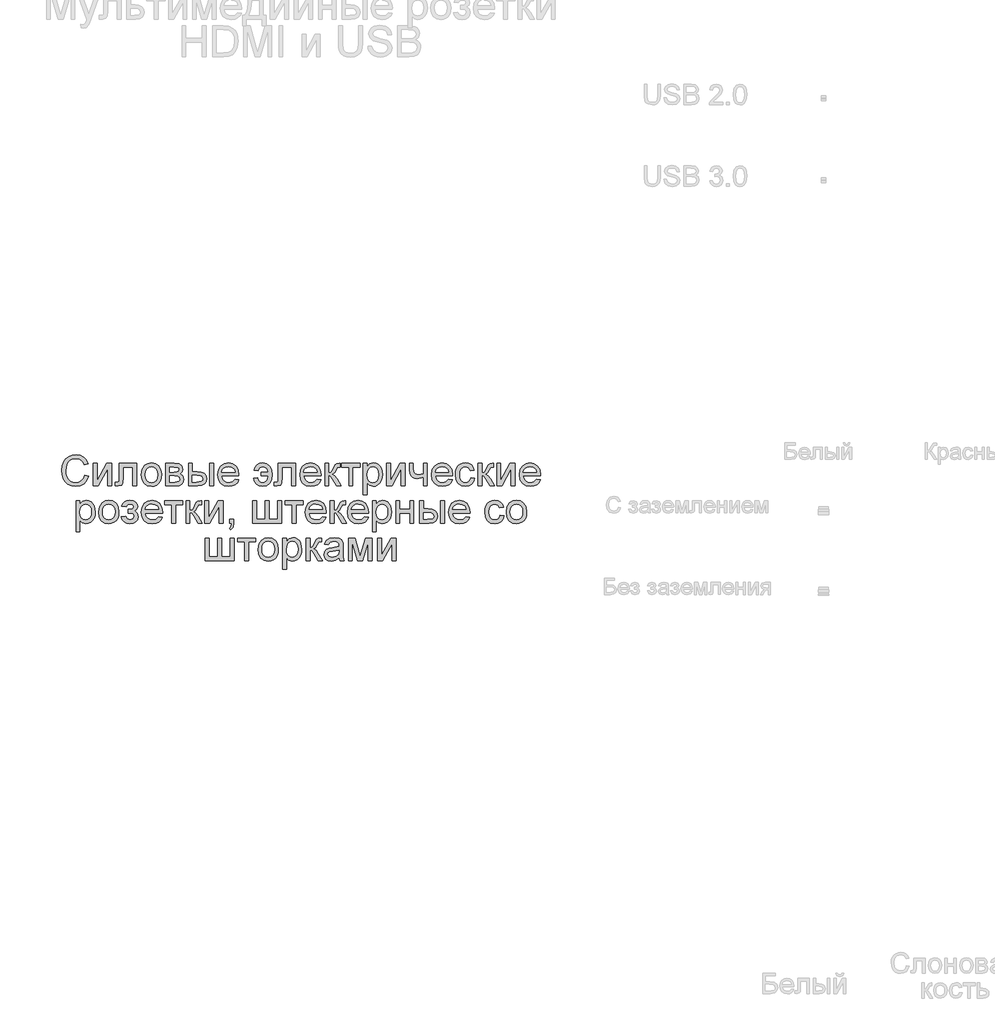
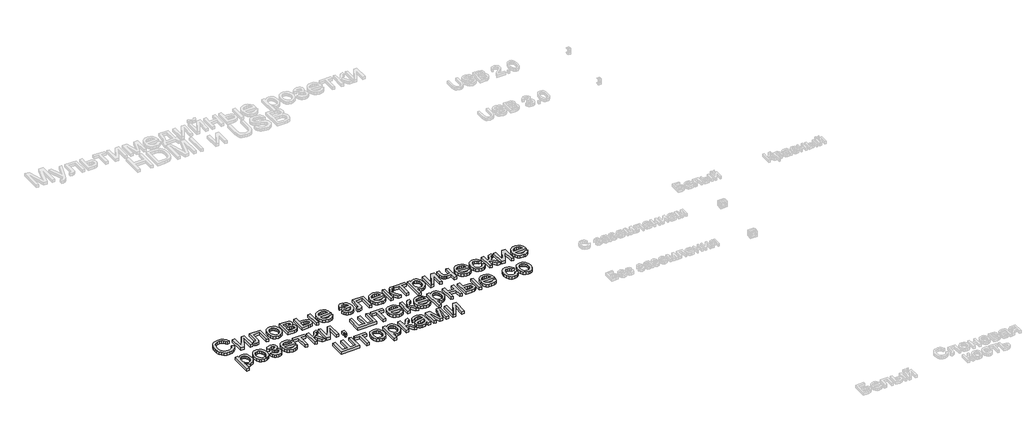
# One storey, part 11 of 47: 1 proxy.
"""IFC4 building model written with IfcOpenShell, lengths in millimetres."""

from ifc_helpers import new_model, si_unit, origin, origin_with_axes, place, context, project, spatial, polyline, outline, extrude, element, save

model = new_model("IFC4")

# Units and contexts
model_context = context("Model", 3, world=origin())
ifc_project = project(units=[si_unit("LENGTHUNIT", "METRE", prefix="MILLI")], contexts=[model_context])

# Site, building, storey
site = spatial("IfcSite", under=ifc_project)
building = spatial("IfcBuilding", under=site)
storey = spatial("IfcBuildingStorey", under=building, Name="Этаж 01", Elevation=0.0)

# Proxy
placement = place(None, origin())
element("IfcBuildingElementProxy", 1, Name="150 мм Arial", ObjectType="150 мм Arial", at=placement, inside=storey, context=model_context, shape_type="SweptSolid", body=[
    extrude(outline(polyline([(-3516.5120185, -10590.2763634), (-3497.6764603, -10595.1324057), (-3506.3676724, -10617.0811653), (-3520.0068974, -10633.1162217), (-3537.9227506, -10642.9248754), (-3559.4438473, -10646.1944267), (-3581.2914393, -10643.7204202), (-3598.6416739, -10636.298401), (-3611.940608, -10624.1858863), (-3621.6342986, -10607.6403936), (-3627.5526002, -10588.1886331), (-3629.5253674, -10567.3573151), (-3627.2950828, -10545.3855629), (-3620.604229, -10526.412049), (-3609.8022939, -10511.0391802), (-3595.2387654, -10499.8693631), (-3577.9667058, -10493.0681447), (-3559.0391771, -10490.8010719), (-3538.3872016, -10493.7349308), (-3521.3128785, -10502.5365075), (-3508.3496367, -10516.6631762), (-3500.0309051, -10535.5723107), (-3518.8664632, -10540.0604711), (-3525.3963686, -10526.3246771), (-3534.317507, -10516.9022995), (-3545.740243, -10511.4530474), (-3559.7749411, -10509.63663), (-3575.9525518, -10511.650784), (-3589.2422889, -10517.6932457), (-3599.3268541, -10527.1294189), (-3605.8889492, -10539.3247071), (-3610.6898092, -10567.3205269), (-3609.268865, -10584.7213453), (-3605.0060324, -10599.7677189), (-3597.740363, -10611.8848321), (-3587.3109084, -10620.4978693), (-3574.8075191, -10625.6436187), (-3561.3200455, -10627.3588685), (-3545.5976887, -10625.0228178), (-3532.4964912, -10618.0146658), (-3522.605064, -10606.4079889), (-3516.5120185, -10590.2763634)])), origin_with_axes(), (0.0, 0.0, 1.0), 20.0),
    extrude(outline(polyline([(-3474.1320126, -10533.1810777), (-3455.2964545, -10533.1810777), (-3455.2964545, -10617.5732074), (-3409.0168995, -10533.1810777), (-3384.6631114, -10533.1810777), (-3384.6631114, -10643.8399819), (-3403.4986695, -10643.8399819), (-3403.4986695, -10559.962887), (-3449.4839189, -10643.8399819), (-3474.1320126, -10643.8399819), (-3474.1320126, -10533.1810777)])), origin_with_axes(), (0.0, 0.0, 1.0), 20.0),
    extrude(outline(polyline([(-3346.9919951, -10533.1810777), (-3262.2319834, -10533.1810777), (-3262.2319834, -10643.7296173), (-3281.0675415, -10643.7296173), (-3281.0675415, -10552.0166359), (-3328.1564369, -10552.0166359), (-3328.1564369, -10604.8077022), (-3329.4256298, -10629.1614903), (-3336.3969936, -10639.443792), (-3352.878107, -10643.8399819), (-3368.181998, -10642.8834887), (-3368.181998, -10625.0044237), (-3359.7575003, -10625.0044237), (-3351.2410321, -10623.8455955), (-3347.8381237, -10620.1667755), (-3346.9919951, -10603.7408444), (-3346.9919951, -10533.1810777)])), origin_with_axes(), (0.0, 0.0, 1.0), 20.0),
    extrude(outline(polyline([(-3238.6875357, -10588.5105298), (-3234.6132426, -10561.8298881), (-3222.3903633, -10543.0771034), (-3207.2888074, -10533.8892506), (-3189.2074074, -10530.826633), (-3169.4199545, -10534.5560367), (-3153.6148243, -10545.7442479), (-3143.2543476, -10563.5083497), (-3139.8008554, -10586.9654254), (-3141.3275657, -10605.9941216), (-3145.9076965, -10620.4794752), (-3153.4078907, -10631.3273955), (-3163.694791, -10639.443792), (-3175.9130718, -10644.506768), (-3189.2074074, -10646.1944267), (-3209.2339835, -10642.4788185), (-3225.0207196, -10631.3319941), (-3235.2708317, -10613.1954117), (-3238.6875357, -10588.5105298)]), holes=[polyline([(-3219.8519775, -10588.4737416), (-3217.6722767, -10605.5204736), (-3211.1331743, -10617.6651779), (-3201.2923309, -10624.9354459), (-3189.2074074, -10627.3588685), (-3177.1776661, -10624.9216503), (-3167.3552168, -10617.6099956), (-3160.8161144, -10605.3043429), (-3158.6364136, -10587.8851304), (-3160.8299099, -10571.3350392), (-3167.4103991, -10559.3558817), (-3177.246644, -10552.0856138), (-3189.2074074, -10549.6621911), (-3201.2923309, -10552.0764167), (-3211.1331743, -10559.3190935), (-3217.6722767, -10571.4362067), (-3219.8519775, -10588.4737416)])]), origin_with_axes(), (0.0, 0.0, 1.0), 20.0),
    extrude(outline(polyline([(-3118.6108525, -10533.1810777), (-3077.1137634, -10533.1810777), (-3054.360262, -10535.7010694), (-3041.5579686, -10544.9349075), (-3036.2052856, -10561.0297448), (-3039.4426471, -10574.1079497), (-3049.19152, -10583.4337583), (-3036.5363794, -10593.6424836), (-3031.496396, -10611.3927899), (-3034.6877723, -10625.7493848), (-3042.2753385, -10635.8569426), (-3054.2866856, -10641.8442221), (-3070.7494049, -10643.8399819), (-3118.6108525, -10643.8399819), (-3118.6108525, -10533.1810777)]), holes=[polyline([(-3099.7752943, -10625.0044237), (-3076.672305, -10625.0044237), (-3056.1812779, -10621.6015153), (-3051.9414379, -10616.9616036), (-3050.3319542, -10609.8476855), (-3053.5509216, -10600.7793944), (-3061.9386311, -10595.5002877), (-3078.511715, -10594.3966417), (-3099.7752943, -10594.3966417), (-3099.7752943, -10625.0044237)]), polyline([(-3099.7752943, -10575.5610836), (-3081.1604654, -10575.5610836), (-3065.8013921, -10574.6045904), (-3058.3333876, -10570.7786176), (-3055.0408437, -10563.8624361), (-3056.4847805, -10558.2430387), (-3060.816591, -10554.6285981), (-3080.5718542, -10552.0166359), (-3099.7752943, -10552.0166359), (-3099.7752943, -10575.5610836)])]), origin_with_axes(), (0.0, 0.0, 1.0), 20.0),
    extrude(outline(polyline([(-2904.3563785, -10533.1810777), (-2885.5208203, -10533.1810777), (-2885.5208203, -10643.8399819), (-2904.3563785, -10643.8399819), (-2904.3563785, -10533.1810777)])), origin_with_axes(), (0.0, 0.0, 1.0), 20.0),
    extrude(outline(polyline([(-3007.9519483, -10533.1810777), (-2989.1163902, -10533.1810777), (-2989.1163902, -10573.2066388), (-2965.8294599, -10573.2066388), (-2945.7017162, -10575.5656821), (-2930.7886998, -10582.642812), (-2921.5594603, -10593.8678114), (-2918.4830471, -10608.6704632), (-2921.0628196, -10622.1487397), (-2928.8021371, -10633.5208919), (-2942.2068373, -10641.2602094), (-2961.7827579, -10643.8399819), (-3007.9519483, -10643.8399819), (-3007.9519483, -10533.1810777)]), holes=[polyline([(-2989.1163902, -10625.0044237), (-2969.7657972, -10625.0044237), (-2944.7866098, -10621.0496923), (-2939.1856064, -10615.9867163), (-2937.3186053, -10608.7072514), (-2942.8552293, -10597.1189685), (-2951.7349809, -10593.3113899), (-2967.3009879, -10592.042197), (-2989.1163902, -10592.042197), (-2989.1163902, -10625.0044237)])]), origin_with_axes(), (0.0, 0.0, 1.0), 20.0),
    extrude(outline(polyline([(-2779.7915349, -10610.8777551), (-2761.3238588, -10613.2321999), (-2767.9779243, -10627.1473364), (-2778.5959184, -10637.5491998), (-2792.9387177, -10644.0331199), (-2810.7671989, -10646.1944267), (-2832.8677098, -10642.4650229), (-2849.873055, -10631.2768118), (-2860.7163768, -10613.3563601), (-2864.3308174, -10589.4302348), (-2860.6795886, -10564.6993677), (-2849.7259022, -10546.2041004), (-2832.9504832, -10534.6709998), (-2811.8340567, -10530.826633), (-2791.3752192, -10534.6618028), (-2775.0274631, -10546.1673122), (-2764.3083014, -10564.6257913), (-2760.7352476, -10589.3198702), (-2760.8456122, -10594.3966417), (-2845.4952593, -10594.3966417), (-2842.2349051, -10608.4957192), (-2834.6611345, -10618.8607944), (-2823.7304407, -10625.23435), (-2810.3993169, -10627.3588685), (-2791.9316408, -10623.4225312), (-2779.7915349, -10610.8777551)]), holes=[polyline([(-2845.4952593, -10575.5610836), (-2779.5708057, -10575.5610836), (-2782.1183885, -10565.6098756), (-2787.1123866, -10558.491359), (-2798.0936642, -10551.8694831), (-2811.9076331, -10549.6621911), (-2824.6041605, -10551.4234262), (-2835.1025929, -10556.7071313), (-2842.400452, -10564.9430895), (-2845.4952593, -10575.5610836)])]), origin_with_axes(), (0.0, 0.0, 1.0), 20.0),
    extrude(outline(polyline([(-2652.4307882, -10575.5610836), (-2617.1141167, -10575.5610836), (-2620.0157859, -10565.1270305), (-2625.6305848, -10556.8542841), (-2633.5906315, -10551.4602144), (-2643.5280439, -10549.6621911), (-2658.7951467, -10554.3710807), (-2666.5574568, -10568.4977493), (-2685.393015, -10566.1433045), (-2681.0014236, -10552.0028403), (-2672.4619628, -10540.7042645), (-2660.2068939, -10533.2960409), (-2644.6684781, -10530.826633), (-2625.4420453, -10534.6709998), (-2610.731364, -10546.2041004), (-2601.3917599, -10564.4694414), (-2598.2785585, -10588.5105298), (-2600.8491339, -10612.4412536), (-2609.7380826, -10631.2584177), (-2624.2648229, -10643.122612), (-2643.7487731, -10646.1944267), (-2660.4506157, -10643.4399102), (-2673.6207911, -10635.1763609), (-2682.8546292, -10622.4154542), (-2687.7474597, -10606.1688656), (-2668.9119016, -10603.8144208), (-2665.9366559, -10614.1151167), (-2660.8001036, -10621.4727566), (-2653.5022445, -10625.8873405), (-2644.0430787, -10627.3588685), (-2633.402092, -10625.2987293), (-2625.3914615, -10619.1183118), (-2619.9743992, -10608.8176159), (-2617.1141167, -10594.3966417), (-2652.4307882, -10594.3966417), (-2652.4307882, -10575.5610836)])), origin_with_axes(), (0.0, 0.0, 1.0), 20.0),
    extrude(outline(polyline([(-2567.6707765, -10533.1810777), (-2482.9107648, -10533.1810777), (-2482.9107648, -10643.7296173), (-2501.746323, -10643.7296173), (-2501.746323, -10552.0166359), (-2548.8352183, -10552.0166359), (-2548.8352183, -10604.8077022), (-2550.1044112, -10629.1614903), (-2557.075775, -10639.443792), (-2573.5568884, -10643.8399819), (-2588.8607794, -10642.8834887), (-2588.8607794, -10625.0044237), (-2580.4362817, -10625.0044237), (-2571.9198135, -10623.8455955), (-2568.5169051, -10620.1667755), (-2567.6707765, -10603.7408444), (-2567.6707765, -10533.1810777)])), origin_with_axes(), (0.0, 0.0, 1.0), 20.0),
    extrude(outline(polyline([(-2377.1814794, -10610.8777551), (-2358.7138032, -10613.2321999), (-2365.3678688, -10627.1473364), (-2375.9858629, -10637.5491998), (-2390.3286622, -10644.0331199), (-2408.1571434, -10646.1944267), (-2430.2576543, -10642.4650229), (-2447.2629995, -10631.2768118), (-2458.1063213, -10613.3563601), (-2461.7207619, -10589.4302348), (-2458.0695331, -10564.6993677), (-2447.1158467, -10546.2041004), (-2430.3404277, -10534.6709998), (-2409.2240012, -10530.826633), (-2388.7651637, -10534.6618028), (-2372.4174076, -10546.1673122), (-2361.6982459, -10564.6257913), (-2358.125192, -10589.3198702), (-2358.2355566, -10594.3966417), (-2442.8852037, -10594.3966417), (-2439.6248496, -10608.4957192), (-2432.051079, -10618.8607944), (-2421.1203852, -10625.23435), (-2407.7892614, -10627.3588685), (-2389.3215852, -10623.4225312), (-2377.1814794, -10610.8777551)]), holes=[polyline([(-2442.8852037, -10575.5610836), (-2376.9607502, -10575.5610836), (-2379.508333, -10565.6098756), (-2384.5023311, -10558.491359), (-2395.4836087, -10551.8694831), (-2409.2975776, -10549.6621911), (-2421.9941049, -10551.4234262), (-2432.4925374, -10556.7071313), (-2439.7903965, -10564.9430895), (-2442.8852037, -10575.5610836)])]), origin_with_axes(), (0.0, 0.0, 1.0), 20.0),
    extrude(outline(polyline([(-2339.2896339, -10533.1810777), (-2320.4540757, -10533.1810777), (-2320.4540757, -10580.2699731), (-2307.8357233, -10576.8854588), (-2297.4982392, -10557.1669838), (-2288.9081947, -10540.1524415), (-2281.3298256, -10534.6158175), (-2267.5526448, -10533.1810777), (-2263.9474013, -10533.1810777), (-2263.9474013, -10552.1270005), (-2269.0241728, -10552.0166359), (-2278.2212227, -10554.0031987), (-2284.6959458, -10566.4008219), (-2292.292709, -10579.8101206), (-2302.9428928, -10586.3768142), (-2291.0603043, -10593.706863), (-2279.3984451, -10609.1487097), (-2259.2385117, -10643.8399819), (-2280.6492439, -10643.8399819), (-2300.404507, -10609.8844737), (-2310.3373209, -10595.5186818), (-2320.4540757, -10592.042197), (-2320.4540757, -10643.8399819), (-2339.2896339, -10643.8399819), (-2339.2896339, -10533.1810777)])), origin_with_axes(), (0.0, 0.0, 1.0), 20.0),
    extrude(outline(polyline([(-2256.884067, -10533.1810777), (-2167.4151657, -10533.1810777), (-2167.4151657, -10552.0166359), (-2202.7318373, -10552.0166359), (-2202.7318373, -10643.8399819), (-2221.5673954, -10643.8399819), (-2221.5673954, -10552.0166359), (-2256.884067, -10552.0166359), (-2256.884067, -10533.1810777)])), origin_with_axes(), (0.0, 0.0, 1.0), 20.0),
    extrude(outline(polyline([(-2150.9340524, -10686.2199877), (-2150.9340524, -10533.1810777), (-2132.0984942, -10533.1810777), (-2132.0984942, -10551.6487539), (-2119.0754716, -10536.0321632), (-2101.4907122, -10530.826633), (-2088.7527981, -10532.6476488), (-2077.6151707, -10538.1106965), (-2068.5468795, -10546.8846821), (-2062.0169741, -10558.6385118), (-2056.7562616, -10587.6644012), (-2058.2415852, -10603.7730341), (-2062.6975558, -10618.1802127), (-2069.9816193, -10630.1547717), (-2079.9512214, -10638.9655455), (-2091.5624969, -10644.3872064), (-2103.7715806, -10646.1944267), (-2120.1607235, -10641.3567784), (-2132.0984942, -10629.1247021), (-2132.0984942, -10686.2199877), (-2150.9340524, -10686.2199877)]), holes=[polyline([(-2132.0984942, -10589.3934466), (-2130.0613477, -10606.2792302), (-2123.949908, -10618.0882422), (-2114.9322006, -10625.0412119), (-2104.1762508, -10627.3588685), (-2093.245557, -10624.9584385), (-2083.9979233, -10617.7571484), (-2077.6933456, -10605.515875), (-2075.5918198, -10587.995495), (-2077.6427619, -10571.2016819), (-2083.7955882, -10559.227123), (-2092.7995001, -10552.0534241), (-2103.4036986, -10549.6621911), (-2114.0492838, -10552.2051754), (-2123.398085, -10559.8341283), (-2129.9233919, -10572.3099265), (-2132.0984942, -10589.3934466)])]), origin_with_axes(), (0.0, 0.0, 1.0), 20.0),
    extrude(outline(polyline([(-2035.5662587, -10533.1810777), (-2016.7307005, -10533.1810777), (-2016.7307005, -10617.5732074), (-1970.4511455, -10533.1810777), (-1946.0973574, -10533.1810777), (-1946.0973574, -10643.8399819), (-1964.9329156, -10643.8399819), (-1964.9329156, -10559.962887), (-2010.918165, -10643.8399819), (-2035.5662587, -10643.8399819), (-2035.5662587, -10533.1810777)])), origin_with_axes(), (0.0, 0.0, 1.0), 20.0),
    extrude(outline(polyline([(-1924.9073545, -10533.1810777), (-1906.0717964, -10533.1810777), (-1906.0717964, -10554.4078689), (-1904.5450861, -10574.3102848), (-1897.2058403, -10585.0892273), (-1882.6377133, -10589.6877522), (-1856.6284562, -10583.9855813), (-1856.6284562, -10533.1810777), (-1837.7928981, -10533.1810777), (-1837.7928981, -10643.8399819), (-1856.6284562, -10643.8399819), (-1856.6284562, -10602.0485872), (-1887.6776966, -10608.5233104), (-1899.0682429, -10606.8356517), (-1909.0332464, -10601.7726757), (-1916.8001551, -10594.2632845), (-1921.5964166, -10585.2363801), (-1924.9073545, -10563.7152833), (-1924.9073545, -10533.1810777)])), origin_with_axes(), (0.0, 0.0, 1.0), 20.0),
    extrude(outline(polyline([(-1732.0636127, -10610.8777551), (-1713.5959365, -10613.2321999), (-1720.2500021, -10627.1473364), (-1730.8679962, -10637.5491998), (-1745.2107955, -10644.0331199), (-1763.0392766, -10646.1944267), (-1785.1397875, -10642.4650229), (-1802.1451327, -10631.2768118), (-1812.9884545, -10613.3563601), (-1816.6028951, -10589.4302348), (-1812.9516663, -10564.6993677), (-1801.9979799, -10546.2041004), (-1785.222561, -10534.6709998), (-1764.1061344, -10530.826633), (-1743.647297, -10534.6618028), (-1727.2995408, -10546.1673122), (-1716.5803792, -10564.6257913), (-1713.0073253, -10589.3198702), (-1713.1176899, -10594.3966417), (-1797.767337, -10594.3966417), (-1794.5069828, -10608.4957192), (-1786.9332122, -10618.8607944), (-1776.0025185, -10625.23435), (-1762.6713947, -10627.3588685), (-1744.2037185, -10623.4225312), (-1732.0636127, -10610.8777551)]), holes=[polyline([(-1797.767337, -10575.5610836), (-1731.8428835, -10575.5610836), (-1734.3904663, -10565.6098756), (-1739.3844644, -10558.491359), (-1750.3657419, -10551.8694831), (-1764.1797108, -10549.6621911), (-1776.8762382, -10551.4234262), (-1787.3746706, -10556.7071313), (-1794.6725297, -10564.9430895), (-1797.767337, -10575.5610836)])]), origin_with_axes(), (0.0, 0.0, 1.0), 20.0),
    extrude(outline(polyline([(-1623.5384241, -10603.8144208), (-1604.7028659, -10606.1688656), (-1609.9543814, -10622.9212919), (-1619.8228159, -10635.5810311), (-1633.3792674, -10643.5410778), (-1649.6948339, -10646.1944267), (-1669.7306071, -10642.4926141), (-1685.3977816, -10631.3871764), (-1695.5099379, -10613.3655571), (-1698.8806567, -10588.9152), (-1697.4413184, -10572.1535766), (-1693.1233035, -10557.6268363), (-1685.8576341, -10545.8959992), (-1675.5753323, -10537.5220853), (-1663.2742781, -10532.500496), (-1649.9523513, -10530.826633), (-1634.0368565, -10533.1258954), (-1621.312738, -10540.0236829), (-1612.184666, -10551.1521132), (-1607.0573107, -10566.1433045), (-1625.8928688, -10568.4977493), (-1634.6300662, -10554.3894748), (-1649.8051985, -10549.6621911), (-1661.977494, -10551.9890447), (-1671.6389949, -10558.9696056), (-1677.9435726, -10570.9809527), (-1680.0450985, -10588.4001652), (-1677.9895579, -10606.0539025), (-1671.8229359, -10618.1066363), (-1662.336179, -10625.0458105), (-1650.3202333, -10627.3588685), (-1640.5667619, -10625.9149317), (-1632.5699271, -10621.5831212), (-1626.752793, -10614.2530724), (-1623.5384241, -10603.8144208)])), origin_with_axes(), (0.0, 0.0, 1.0), 20.0),
    extrude(outline(polyline([(-1588.2217525, -10533.1810777), (-1569.3861944, -10533.1810777), (-1569.3861944, -10580.2699731), (-1556.767842, -10576.8854588), (-1546.4303579, -10557.1669838), (-1537.8403133, -10540.1524415), (-1530.2619442, -10534.6158175), (-1516.4847635, -10533.1810777), (-1512.8795199, -10533.1810777), (-1512.8795199, -10552.1270005), (-1517.9562915, -10552.0166359), (-1527.1533413, -10554.0031987), (-1533.6280645, -10566.4008219), (-1541.2248277, -10579.8101206), (-1551.8750114, -10586.3768142), (-1539.992423, -10593.706863), (-1528.3305637, -10609.1487097), (-1508.1706304, -10643.8399819), (-1529.5813625, -10643.8399819), (-1549.3366257, -10609.8844737), (-1559.2694395, -10595.5186818), (-1569.3861944, -10592.042197), (-1569.3861944, -10643.8399819), (-1588.2217525, -10643.8399819), (-1588.2217525, -10533.1810777)])), origin_with_axes(), (0.0, 0.0, 1.0), 20.0),
    extrude(outline(polyline([(-1496.3984065, -10533.1810777), (-1477.5628484, -10533.1810777), (-1477.5628484, -10617.5732074), (-1431.2832934, -10533.1810777), (-1406.9295053, -10533.1810777), (-1406.9295053, -10643.8399819), (-1425.7650635, -10643.8399819), (-1425.7650635, -10559.962887), (-1471.7503129, -10643.8399819), (-1496.3984065, -10643.8399819), (-1496.3984065, -10533.1810777)])), origin_with_axes(), (0.0, 0.0, 1.0), 20.0),
    extrude(outline(polyline([(-1301.2002199, -10610.8777551), (-1282.7325437, -10613.2321999), (-1289.3866093, -10627.1473364), (-1300.0046034, -10637.5491998), (-1314.3474027, -10644.0331199), (-1332.1758839, -10646.1944267), (-1354.2763948, -10642.4650229), (-1371.28174, -10631.2768118), (-1382.1250618, -10613.3563601), (-1385.7395024, -10589.4302348), (-1382.0882736, -10564.6993677), (-1371.1345872, -10546.2041004), (-1354.3591682, -10534.6709998), (-1333.2427417, -10530.826633), (-1312.7839042, -10534.6618028), (-1296.4361481, -10546.1673122), (-1285.7169864, -10564.6257913), (-1282.1439326, -10589.3198702), (-1282.2542972, -10594.3966417), (-1366.9039442, -10594.3966417), (-1363.6435901, -10608.4957192), (-1356.0698195, -10618.8607944), (-1345.1391257, -10625.23435), (-1331.8080019, -10627.3588685), (-1313.3403257, -10623.4225312), (-1301.2002199, -10610.8777551)]), holes=[polyline([(-1366.9039442, -10575.5610836), (-1300.9794907, -10575.5610836), (-1303.5270735, -10565.6098756), (-1308.5210716, -10558.491359), (-1319.5023492, -10551.8694831), (-1333.3163181, -10549.6621911), (-1346.0128454, -10551.4234262), (-1356.5112779, -10556.7071313), (-1363.809137, -10564.9430895), (-1366.9039442, -10575.5610836)])]), origin_with_axes(), (0.0, 0.0, 1.0), 20.0),
    extrude(outline(polyline([(-3558.8920243, -10869.1822145), (-3558.8920243, -10716.1433045), (-3540.0564662, -10716.1433045), (-3540.0564662, -10734.6109807), (-3527.0334435, -10718.99439), (-3509.4486842, -10713.7888597), (-3496.7107701, -10715.6098756), (-3485.5731427, -10721.0729232), (-3476.5048515, -10729.8469088), (-3469.9749461, -10741.6007386), (-3464.7142335, -10770.626628), (-3466.1995571, -10786.7352609), (-3470.6555278, -10801.1424395), (-3477.9395913, -10813.1169984), (-3487.9091933, -10821.9277722), (-3499.5204688, -10827.3494331), (-3511.7295525, -10829.1566534), (-3528.1186954, -10824.3190052), (-3540.0564662, -10812.0869289), (-3540.0564662, -10869.1822145), (-3558.8920243, -10869.1822145)]), holes=[polyline([(-3540.0564662, -10772.3556734), (-3538.0193196, -10789.241457), (-3531.90788, -10801.050469), (-3522.8901726, -10808.0034387), (-3512.1342227, -10810.3210953), (-3501.2035289, -10807.9206653), (-3491.9558953, -10800.7193752), (-3485.6513176, -10788.4781018), (-3483.5497917, -10770.9577218), (-3485.6007338, -10754.1639087), (-3491.7535602, -10742.1893498), (-3500.757472, -10735.0156509), (-3511.3616705, -10732.6244179), (-3522.0072558, -10735.1674022), (-3531.356057, -10742.7963551), (-3537.8813639, -10755.2721532), (-3540.0564662, -10772.3556734)])]), origin_with_axes(), (0.0, 0.0, 1.0), 20.0),
    extrude(outline(polyline([(-3448.2331202, -10771.4727566), (-3444.1588271, -10744.7921149), (-3431.9359478, -10726.0393302), (-3416.8343919, -10716.8514773), (-3398.7529918, -10713.7888597), (-3378.965539, -10717.5182635), (-3363.1604088, -10728.7064746), (-3352.7999321, -10746.4705765), (-3349.3464399, -10769.9276522), (-3350.8731501, -10788.9563484), (-3355.453281, -10803.441702), (-3362.9534751, -10814.2896223), (-3373.2403754, -10822.4060188), (-3385.4586562, -10827.4689948), (-3398.7529918, -10829.1566534), (-3418.7795679, -10825.4410453), (-3434.566304, -10814.2942208), (-3444.8164161, -10796.1576385), (-3448.2331202, -10771.4727566)]), holes=[polyline([(-3429.397562, -10771.4359684), (-3427.2178612, -10788.4827003), (-3420.6787587, -10800.6274047), (-3410.8379153, -10807.8976726), (-3398.7529918, -10810.3210953), (-3386.7232506, -10807.8838771), (-3376.9008013, -10800.5722224), (-3370.3616988, -10788.2665697), (-3368.181998, -10770.8473572), (-3370.3754944, -10754.2972659), (-3376.9559836, -10742.3181085), (-3386.7922284, -10735.0478405), (-3398.7529918, -10732.6244179), (-3410.8379153, -10735.0386435), (-3420.6787587, -10742.2813203), (-3427.2178612, -10754.3984335), (-3429.397562, -10771.4359684)])]), origin_with_axes(), (0.0, 0.0, 1.0), 20.0),
    extrude(outline(polyline([(-3302.2575445, -10777.3588685), (-3302.2575445, -10758.5233104), (-3287.3951119, -10757.7875464), (-3279.8903192, -10753.8696031), (-3276.358652, -10745.6842287), (-3281.0859356, -10736.1744791), (-3293.2812238, -10732.6244179), (-3305.8811821, -10736.156085), (-3314.0297683, -10746.7510865), (-3335.2197712, -10744.3966417), (-3329.6003738, -10731.0057371), (-3321.0563144, -10721.4408052), (-3309.5875932, -10715.7018461), (-3295.1942102, -10713.7888597), (-3279.4488608, -10716.1203119), (-3267.5294841, -10723.1146683), (-3260.0246914, -10733.3463863), (-3257.5230939, -10745.3899231), (-3261.0823522, -10757.0885706), (-3271.7601271, -10766.1384677), (-3259.3073215, -10777.8739033), (-3255.1686491, -10794.7596869), (-3257.7944068, -10808.6242396), (-3265.67168, -10819.6101157), (-3278.2670399, -10826.770019), (-3295.0470574, -10829.1566534), (-3311.4591929, -10826.9493615), (-3324.0177645, -10820.3274855), (-3332.7227722, -10809.2910257), (-3337.574216, -10793.8399819), (-3316.3842131, -10791.4855371), (-3307.886139, -10805.3914765), (-3293.2444356, -10810.3210953), (-3279.485649, -10805.5938116), (-3274.0042072, -10793.5088881), (-3277.4071157, -10783.6128624), (-3284.654391, -10778.3153617), (-3298.5787245, -10777.2485039), (-3302.2575445, -10777.3588685)])), origin_with_axes(), (0.0, 0.0, 1.0), 20.0),
    extrude(outline(polyline([(-3154.1482532, -10793.8399819), (-3135.6805771, -10796.1944267), (-3142.3346426, -10810.1095631), (-3152.9526367, -10820.5114265), (-3167.295436, -10826.9953467), (-3185.1239172, -10829.1566534), (-3207.2244281, -10825.4272497), (-3224.2297733, -10814.2390385), (-3235.0730951, -10796.3185868), (-3238.6875357, -10772.3924616), (-3235.0363069, -10747.6615944), (-3224.0826205, -10729.1663271), (-3207.3072015, -10717.6332266), (-3186.190775, -10713.7888597), (-3165.7319375, -10717.6240295), (-3149.3841814, -10729.1295389), (-3138.6650197, -10747.588018), (-3135.0919659, -10772.282097), (-3135.2023305, -10777.3588685), (-3219.8519775, -10777.3588685), (-3216.5916234, -10791.457946), (-3209.0178528, -10801.8230212), (-3198.087159, -10808.1965768), (-3184.7560352, -10810.3210953), (-3166.2883591, -10806.3847579), (-3154.1482532, -10793.8399819)]), holes=[polyline([(-3219.8519775, -10758.5233104), (-3153.927524, -10758.5233104), (-3156.4751068, -10748.5721024), (-3161.4691049, -10741.4535858), (-3172.4503825, -10734.8317099), (-3186.2643514, -10732.6244179), (-3198.9608787, -10734.3856529), (-3209.4593112, -10739.6693581), (-3216.7571703, -10747.9053163), (-3219.8519775, -10758.5233104)])]), origin_with_axes(), (0.0, 0.0, 1.0), 20.0),
    extrude(outline(polyline([(-3125.6741868, -10716.1433045), (-3036.2052856, -10716.1433045), (-3036.2052856, -10734.9788627), (-3071.5219571, -10734.9788627), (-3071.5219571, -10826.8022087), (-3090.3575152, -10826.8022087), (-3090.3575152, -10734.9788627), (-3125.6741868, -10734.9788627), (-3125.6741868, -10716.1433045)])), origin_with_axes(), (0.0, 0.0, 1.0), 20.0),
    extrude(outline(polyline([(-3019.7241722, -10716.1433045), (-3000.888614, -10716.1433045), (-3000.888614, -10763.2321999), (-2988.2702616, -10759.8476855), (-2977.9327775, -10740.1292106), (-2969.3427329, -10723.1146683), (-2961.7643638, -10717.5780443), (-2947.9871831, -10716.1433045), (-2944.3819396, -10716.1433045), (-2944.3819396, -10735.0892273), (-2949.4587111, -10734.9788627), (-2958.655761, -10736.9654254), (-2965.1304841, -10749.3630487), (-2972.7272473, -10762.7723474), (-2983.377431, -10769.339041), (-2971.4948426, -10776.6690898), (-2959.8329834, -10792.1109365), (-2939.67305, -10826.8022087), (-2961.0837821, -10826.8022087), (-2980.8390453, -10792.8467005), (-2990.7718592, -10778.4809086), (-3000.888614, -10775.0044237), (-3000.888614, -10826.8022087), (-3019.7241722, -10826.8022087), (-3019.7241722, -10716.1433045)])), origin_with_axes(), (0.0, 0.0, 1.0), 20.0),
    extrude(outline(polyline([(-2927.9008262, -10716.1433045), (-2909.065268, -10716.1433045), (-2909.065268, -10800.5354342), (-2862.785713, -10716.1433045), (-2838.431925, -10716.1433045), (-2838.431925, -10826.8022087), (-2857.2674831, -10826.8022087), (-2857.2674831, -10742.9251138), (-2903.2527325, -10826.8022087), (-2927.9008262, -10826.8022087), (-2927.9008262, -10716.1433045)])), origin_with_axes(), (0.0, 0.0, 1.0), 20.0),
    extrude(outline(polyline([(-2805.4696982, -10826.8022087), (-2805.4696982, -10807.9666505), (-2786.63414, -10807.9666505), (-2786.63414, -10826.8022087), (-2790.0186544, -10846.0608311), (-2800.7608086, -10857.4099907), (-2805.4696982, -10850.3466563), (-2798.5535167, -10842.2164643), (-2796.0887073, -10826.8022087), (-2805.4696982, -10826.8022087)])), origin_with_axes(), (0.0, 0.0, 1.0), 20.0),
    extrude(outline(polyline([(-2692.4563493, -10716.1433045), (-2673.6207911, -10716.1433045), (-2673.6207911, -10807.9666505), (-2631.2407853, -10807.9666505), (-2631.2407853, -10716.1433045), (-2612.4052271, -10716.1433045), (-2612.4052271, -10807.9666505), (-2570.0252213, -10807.9666505), (-2570.0252213, -10716.1433045), (-2551.1896631, -10716.1433045), (-2551.1896631, -10826.8022087), (-2692.4563493, -10826.8022087), (-2692.4563493, -10716.1433045)])), origin_with_axes(), (0.0, 0.0, 1.0), 20.0),
    extrude(outline(polyline([(-2534.7085497, -10716.1433045), (-2445.2396485, -10716.1433045), (-2445.2396485, -10734.9788627), (-2480.55632, -10734.9788627), (-2480.55632, -10826.8022087), (-2499.3918782, -10826.8022087), (-2499.3918782, -10734.9788627), (-2534.7085497, -10734.9788627), (-2534.7085497, -10716.1433045)])), origin_with_axes(), (0.0, 0.0, 1.0), 20.0),
    extrude(outline(polyline([(-2351.2825869, -10793.8399819), (-2332.8149108, -10796.1944267), (-2339.4689764, -10810.1095631), (-2350.0869705, -10820.5114265), (-2364.4297697, -10826.9953467), (-2382.2582509, -10829.1566534), (-2404.3587618, -10825.4272497), (-2421.364107, -10814.2390385), (-2432.2074288, -10796.3185868), (-2435.8218694, -10772.3924616), (-2432.1706406, -10747.6615944), (-2421.2169542, -10729.1663271), (-2404.4415352, -10717.6332266), (-2383.3251087, -10713.7888597), (-2362.8662713, -10717.6240295), (-2346.5185151, -10729.1295389), (-2335.7993535, -10747.588018), (-2332.2262996, -10772.282097), (-2332.3366642, -10777.3588685), (-2416.9863113, -10777.3588685), (-2413.7259571, -10791.457946), (-2406.1521865, -10801.8230212), (-2395.2214927, -10808.1965768), (-2381.8903689, -10810.3210953), (-2363.4226928, -10806.3847579), (-2351.2825869, -10793.8399819)]), holes=[polyline([(-2416.9863113, -10758.5233104), (-2351.0618577, -10758.5233104), (-2353.6094406, -10748.5721024), (-2358.6034386, -10741.4535858), (-2369.5847162, -10734.8317099), (-2383.3986851, -10732.6244179), (-2396.0952125, -10734.3856529), (-2406.5936449, -10739.6693581), (-2413.891504, -10747.9053163), (-2416.9863113, -10758.5233104)])]), origin_with_axes(), (0.0, 0.0, 1.0), 20.0),
    extrude(outline(polyline([(-2313.3907414, -10716.1433045), (-2294.5551833, -10716.1433045), (-2294.5551833, -10763.2321999), (-2281.9368308, -10759.8476855), (-2271.5993468, -10740.1292106), (-2263.0093022, -10723.1146683), (-2255.4309331, -10717.5780443), (-2241.6537524, -10716.1433045), (-2238.0485088, -10716.1433045), (-2238.0485088, -10735.0892273), (-2243.1252804, -10734.9788627), (-2252.3223302, -10736.9654254), (-2258.7970533, -10749.3630487), (-2266.3938165, -10762.7723474), (-2277.0440003, -10769.339041), (-2265.1614119, -10776.6690898), (-2253.4995526, -10792.1109365), (-2233.3396193, -10826.8022087), (-2254.7503514, -10826.8022087), (-2274.5056145, -10792.8467005), (-2284.4384284, -10778.4809086), (-2294.5551833, -10775.0044237), (-2294.5551833, -10826.8022087), (-2313.3907414, -10826.8022087), (-2313.3907414, -10716.1433045)])), origin_with_axes(), (0.0, 0.0, 1.0), 20.0),
    extrude(outline(polyline([(-2144.0914473, -10793.8399819), (-2125.6237711, -10796.1944267), (-2132.2778367, -10810.1095631), (-2142.8958308, -10820.5114265), (-2157.2386301, -10826.9953467), (-2175.0671112, -10829.1566534), (-2197.1676221, -10825.4272497), (-2214.1729673, -10814.2390385), (-2225.0162891, -10796.3185868), (-2228.6307297, -10772.3924616), (-2224.9795009, -10747.6615944), (-2214.0258145, -10729.1663271), (-2197.2503956, -10717.6332266), (-2176.133969, -10713.7888597), (-2155.6751316, -10717.6240295), (-2139.3273754, -10729.1295389), (-2128.6082138, -10747.588018), (-2125.0351599, -10772.282097), (-2125.1455245, -10777.3588685), (-2209.7951716, -10777.3588685), (-2206.5348174, -10791.457946), (-2198.9610468, -10801.8230212), (-2188.0303531, -10808.1965768), (-2174.6992293, -10810.3210953), (-2156.2315531, -10806.3847579), (-2144.0914473, -10793.8399819)]), holes=[polyline([(-2209.7951716, -10758.5233104), (-2143.8707181, -10758.5233104), (-2146.4183009, -10748.5721024), (-2151.412299, -10741.4535858), (-2162.3935765, -10734.8317099), (-2176.2075454, -10732.6244179), (-2188.9040728, -10734.3856529), (-2199.4025052, -10739.6693581), (-2206.7003643, -10747.9053163), (-2209.7951716, -10758.5233104)])]), origin_with_axes(), (0.0, 0.0, 1.0), 20.0),
    extrude(outline(polyline([(-2106.1996018, -10869.1822145), (-2106.1996018, -10716.1433045), (-2087.3640436, -10716.1433045), (-2087.3640436, -10734.6109807), (-2074.341021, -10718.99439), (-2056.7562616, -10713.7888597), (-2044.0183475, -10715.6098756), (-2032.8807201, -10721.0729232), (-2023.8124289, -10729.8469088), (-2017.2825235, -10741.6007386), (-2012.021811, -10770.626628), (-2013.5071345, -10786.7352609), (-2017.9631052, -10801.1424395), (-2025.2471687, -10813.1169984), (-2035.2167708, -10821.9277722), (-2046.8280463, -10827.3494331), (-2059.03713, -10829.1566534), (-2075.4262729, -10824.3190052), (-2087.3640436, -10812.0869289), (-2087.3640436, -10869.1822145), (-2106.1996018, -10869.1822145)]), holes=[polyline([(-2087.3640436, -10772.3556734), (-2085.326897, -10789.241457), (-2079.2154574, -10801.050469), (-2070.19775, -10808.0034387), (-2059.4418002, -10810.3210953), (-2048.5111064, -10807.9206653), (-2039.2634727, -10800.7193752), (-2032.958895, -10788.4781018), (-2030.8573691, -10770.9577218), (-2032.9083113, -10754.1639087), (-2039.0611376, -10742.1893498), (-2048.0650495, -10735.0156509), (-2058.669248, -10732.6244179), (-2069.3148332, -10735.1674022), (-2078.6636344, -10742.7963551), (-2085.1889413, -10755.2721532), (-2087.3640436, -10772.3556734)])]), origin_with_axes(), (0.0, 0.0, 1.0), 20.0),
    extrude(outline(polyline([(-1990.8318081, -10716.1433045), (-1971.9962499, -10716.1433045), (-1971.9962499, -10758.5233104), (-1922.5529098, -10758.5233104), (-1922.5529098, -10716.1433045), (-1903.7173516, -10716.1433045), (-1903.7173516, -10826.8022087), (-1922.5529098, -10826.8022087), (-1922.5529098, -10777.3588685), (-1971.9962499, -10777.3588685), (-1971.9962499, -10826.8022087), (-1990.8318081, -10826.8022087), (-1990.8318081, -10716.1433045)])), origin_with_axes(), (0.0, 0.0, 1.0), 20.0),
    extrude(outline(polyline([(-1771.8684445, -10716.1433045), (-1753.0328864, -10716.1433045), (-1753.0328864, -10826.8022087), (-1771.8684445, -10826.8022087), (-1771.8684445, -10716.1433045)])), origin_with_axes(), (0.0, 0.0, 1.0), 20.0),
    extrude(outline(polyline([(-1875.4640144, -10716.1433045), (-1856.6284562, -10716.1433045), (-1856.6284562, -10756.1688656), (-1833.3415259, -10756.1688656), (-1813.2137823, -10758.5279089), (-1798.3007659, -10765.6050388), (-1789.0715263, -10776.8300381), (-1785.9951131, -10791.6326899), (-1788.5748856, -10805.1109665), (-1796.3142031, -10816.4831187), (-1809.7189033, -10824.2224362), (-1829.294824, -10826.8022087), (-1875.4640144, -10826.8022087), (-1875.4640144, -10716.1433045)]), holes=[polyline([(-1856.6284562, -10807.9666505), (-1837.2778633, -10807.9666505), (-1812.2986758, -10804.0119191), (-1806.6976724, -10798.9489431), (-1804.8306713, -10791.6694781), (-1810.3672953, -10780.0811953), (-1819.247047, -10776.2736166), (-1834.8130539, -10775.0044237), (-1856.6284562, -10775.0044237), (-1856.6284562, -10807.9666505)])]), origin_with_axes(), (0.0, 0.0, 1.0), 20.0),
    extrude(outline(polyline([(-1647.303601, -10793.8399819), (-1628.8359248, -10796.1944267), (-1635.4899904, -10810.1095631), (-1646.1079845, -10820.5114265), (-1660.4507838, -10826.9953467), (-1678.279265, -10829.1566534), (-1700.3797758, -10825.4272497), (-1717.385121, -10814.2390385), (-1728.2284429, -10796.3185868), (-1731.8428835, -10772.3924616), (-1728.1916547, -10747.6615944), (-1717.2379682, -10729.1663271), (-1700.4625493, -10717.6332266), (-1679.3461227, -10713.7888597), (-1658.8872853, -10717.6240295), (-1642.5395291, -10729.1295389), (-1631.8203675, -10747.588018), (-1628.2473136, -10772.282097), (-1628.3576782, -10777.3588685), (-1713.0073253, -10777.3588685), (-1709.7469711, -10791.457946), (-1702.1732005, -10801.8230212), (-1691.2425068, -10808.1965768), (-1677.911383, -10810.3210953), (-1659.4437068, -10806.3847579), (-1647.303601, -10793.8399819)]), holes=[polyline([(-1713.0073253, -10758.5233104), (-1647.0828718, -10758.5233104), (-1649.6304546, -10748.5721024), (-1654.6244527, -10741.4535858), (-1665.6057302, -10734.8317099), (-1679.4196991, -10732.6244179), (-1692.1162265, -10734.3856529), (-1702.6146589, -10739.6693581), (-1709.912518, -10747.9053163), (-1713.0073253, -10758.5233104)])]), origin_with_axes(), (0.0, 0.0, 1.0), 20.0),
    extrude(outline(polyline([(-1479.9172932, -10786.7766476), (-1461.081735, -10789.1310924), (-1466.3332505, -10805.8835187), (-1476.201685, -10818.5432579), (-1489.7581365, -10826.5033045), (-1506.073703, -10829.1566534), (-1526.1094762, -10825.4548409), (-1541.7766507, -10814.3494031), (-1551.888807, -10796.3277839), (-1555.2595258, -10771.8774268), (-1553.8201875, -10755.1158034), (-1549.5021725, -10740.5890631), (-1542.2365031, -10728.858226), (-1531.9542014, -10720.4843121), (-1519.6531472, -10715.4627228), (-1506.3312204, -10713.7888597), (-1490.4157256, -10716.0881222), (-1477.6916071, -10722.9859096), (-1468.5635351, -10734.11434), (-1463.4361798, -10749.1055313), (-1482.2717379, -10751.459976), (-1491.0089353, -10737.3517015), (-1506.1840676, -10732.6244179), (-1518.3563631, -10734.9512715), (-1528.017864, -10741.9318324), (-1534.3224417, -10753.9431795), (-1536.4239676, -10771.362392), (-1534.368427, -10789.0161292), (-1528.201805, -10801.0688631), (-1518.7150481, -10808.0080372), (-1506.6991024, -10810.3210953), (-1496.945631, -10808.8771584), (-1488.9487961, -10804.5453479), (-1483.1316621, -10797.2152992), (-1479.9172932, -10786.7766476)])), origin_with_axes(), (0.0, 0.0, 1.0), 20.0),
    extrude(outline(polyline([(-1449.3095112, -10771.4727566), (-1445.2352181, -10744.7921149), (-1433.0123388, -10726.0393302), (-1417.9107829, -10716.8514773), (-1399.8293828, -10713.7888597), (-1380.04193, -10717.5182635), (-1364.2367998, -10728.7064746), (-1353.8763231, -10746.4705765), (-1350.4228309, -10769.9276522), (-1351.9495411, -10788.9563484), (-1356.529672, -10803.441702), (-1364.0298662, -10814.2896223), (-1374.3167664, -10822.4060188), (-1386.5350472, -10827.4689948), (-1399.8293828, -10829.1566534), (-1419.8559589, -10825.4410453), (-1435.642695, -10814.2942208), (-1445.8928071, -10796.1576385), (-1449.3095112, -10771.4727566)]), holes=[polyline([(-1430.473953, -10771.4359684), (-1428.2942522, -10788.4827003), (-1421.7551497, -10800.6274047), (-1411.9143064, -10807.8976726), (-1399.8293828, -10810.3210953), (-1387.7996416, -10807.8838771), (-1377.9771923, -10800.5722224), (-1371.4380898, -10788.2665697), (-1369.258389, -10770.8473572), (-1371.4518854, -10754.2972659), (-1378.0323746, -10742.3181085), (-1387.8686194, -10735.0478405), (-1399.8293828, -10732.6244179), (-1411.9143064, -10735.0386435), (-1421.7551497, -10742.2813203), (-1428.2942522, -10754.3984335), (-1430.473953, -10771.4359684)])]), origin_with_axes(), (0.0, 0.0, 1.0), 20.0),
    extrude(outline(polyline([(-2925.5463814, -10899.1055313), (-2906.7108233, -10899.1055313), (-2906.7108233, -10990.9288773), (-2864.3308174, -10990.9288773), (-2864.3308174, -10899.1055313), (-2845.4952593, -10899.1055313), (-2845.4952593, -10990.9288773), (-2803.1152534, -10990.9288773), (-2803.1152534, -10899.1055313), (-2784.2796953, -10899.1055313), (-2784.2796953, -11009.7644354), (-2925.5463814, -11009.7644354), (-2925.5463814, -10899.1055313)])), origin_with_axes(), (0.0, 0.0, 1.0), 20.0),
    extrude(outline(polyline([(-2767.7985819, -10899.1055313), (-2678.3296806, -10899.1055313), (-2678.3296806, -10917.9410894), (-2713.6463522, -10917.9410894), (-2713.6463522, -11009.7644354), (-2732.4819103, -11009.7644354), (-2732.4819103, -10917.9410894), (-2767.7985819, -10917.9410894), (-2767.7985819, -10899.1055313)])), origin_with_axes(), (0.0, 0.0, 1.0), 20.0),
    extrude(outline(polyline([(-2666.5574568, -10954.4349834), (-2662.4831637, -10927.7543417), (-2650.2602844, -10909.0015569), (-2635.1587285, -10899.8137041), (-2617.0773285, -10896.7510865), (-2597.2898756, -10900.4804902), (-2581.4847454, -10911.6687014), (-2571.1242687, -10929.4328033), (-2567.6707765, -10952.889879), (-2569.1974868, -10971.9185752), (-2573.7776176, -10986.4039287), (-2581.2778118, -10997.2518491), (-2591.5647121, -11005.3682456), (-2603.7829929, -11010.4312215), (-2617.0773285, -11012.1188802), (-2637.1039046, -11008.403272), (-2652.8906407, -10997.2564476), (-2663.1407528, -10979.1198652), (-2666.5574568, -10954.4349834)]), holes=[polyline([(-2647.7218987, -10954.3981952), (-2645.5421978, -10971.4449271), (-2639.0030954, -10983.5896315), (-2629.162252, -10990.8598994), (-2617.0773285, -10993.283322), (-2605.0475872, -10990.8461038), (-2595.2251379, -10983.5344492), (-2588.6860355, -10971.2287964), (-2586.5063347, -10953.809584), (-2588.699831, -10937.2594927), (-2595.2803202, -10925.2803352), (-2605.1165651, -10918.0100673), (-2617.0773285, -10915.5866447), (-2629.162252, -10918.0008703), (-2639.0030954, -10925.243547), (-2645.5421978, -10937.3606603), (-2647.7218987, -10954.3981952)])]), origin_with_axes(), (0.0, 0.0, 1.0), 20.0),
    extrude(outline(polyline([(-2546.4807736, -11052.1444413), (-2546.4807736, -10899.1055313), (-2527.6452154, -10899.1055313), (-2527.6452154, -10917.5732074), (-2514.6221928, -10901.9566167), (-2497.0374334, -10896.7510865), (-2484.2995193, -10898.5721024), (-2473.1618919, -10904.03515), (-2464.0936008, -10912.8091356), (-2457.5636953, -10924.5629653), (-2452.3029828, -10953.5888548), (-2453.7883064, -10969.6974876), (-2458.244277, -10984.1046663), (-2465.5283405, -10996.0792252), (-2475.4979426, -11004.889999), (-2487.1092181, -11010.3116599), (-2499.3183018, -11012.1188802), (-2515.7074447, -11007.281232), (-2527.6452154, -10995.0491556), (-2527.6452154, -11052.1444413), (-2546.4807736, -11052.1444413)]), holes=[polyline([(-2527.6452154, -10955.3179001), (-2525.6080689, -10972.2036837), (-2519.4966292, -10984.0126958), (-2510.4789218, -10990.9656655), (-2499.722972, -10993.283322), (-2488.7922782, -10990.882892), (-2479.5446446, -10983.681602), (-2473.2400669, -10971.4403286), (-2471.138541, -10953.9199486), (-2473.1894831, -10937.1261355), (-2479.3423095, -10925.1515765), (-2488.3462213, -10917.9778776), (-2498.9504198, -10915.5866447), (-2509.596005, -10918.129629), (-2518.9448062, -10925.7585818), (-2525.4701131, -10938.23438), (-2527.6452154, -10955.3179001)])]), origin_with_axes(), (0.0, 0.0, 1.0), 20.0),
    extrude(outline(polyline([(-2431.1129799, -10899.1055313), (-2412.2774217, -10899.1055313), (-2412.2774217, -10946.1944267), (-2399.6590693, -10942.8099123), (-2389.3215852, -10923.0914374), (-2380.7315407, -10906.0768951), (-2373.1531716, -10900.5402711), (-2359.3759908, -10899.1055313), (-2355.7707473, -10899.1055313), (-2355.7707473, -10918.051454), (-2360.8475188, -10917.9410894), (-2370.0445687, -10919.9276522), (-2376.5192918, -10932.3252754), (-2384.116055, -10945.7345742), (-2394.7662388, -10952.3012678), (-2382.8836503, -10959.6313165), (-2371.2217911, -10975.0731633), (-2351.0618577, -11009.7644354), (-2372.4725899, -11009.7644354), (-2392.227853, -10975.8089273), (-2402.1606669, -10961.4431354), (-2412.2774217, -10957.9666505), (-2412.2774217, -11009.7644354), (-2431.1129799, -11009.7644354), (-2431.1129799, -10899.1055313)])), origin_with_axes(), (0.0, 0.0, 1.0), 20.0),
    extrude(outline(polyline([(-2268.6562908, -10995.6377668), (-2286.9216319, -11008.403272), (-2307.0999593, -11012.1188802), (-2322.8407102, -11009.8839971), (-2334.4519857, -11003.1793477), (-2341.611889, -10992.9982135), (-2343.9985234, -10980.3338758), (-2340.3932799, -10965.434655), (-2330.9203185, -10954.6189243), (-2317.731749, -10948.4385068), (-2301.4345766, -10945.6058155), (-2268.7666554, -10939.1310924), (-2268.6562908, -10934.9372376), (-2269.9530749, -10926.531134), (-2273.843427, -10921.0312982), (-2282.5438361, -10916.947808), (-2294.6655479, -10915.5866447), (-2313.7218352, -10919.2102823), (-2322.8085205, -10932.067758), (-2341.6440787, -10929.7133133), (-2333.4954925, -10911.3192135), (-2317.0879555, -10900.5402711), (-2292.2375267, -10896.7510865), (-2269.4104489, -10900.0988127), (-2256.516185, -10908.5049163), (-2250.7404377, -10921.2888156), (-2249.8207327, -10937.769929), (-2249.8207327, -10961.2040121), (-2248.8642395, -10993.9271155), (-2245.1118431, -11009.7644354), (-2263.9474013, -11009.7644354), (-2268.6562908, -10995.6377668)]), holes=[polyline([(-2268.6562908, -10957.9666505), (-2299.0433436, -10963.7423978), (-2315.2485455, -10966.7958184), (-2322.5877913, -10971.7622253), (-2325.1629653, -10979.0095006), (-2319.5527649, -10989.1998319), (-2303.0900456, -10993.283322), (-2284.0337582, -10988.7767676), (-2271.7464996, -10977.8690664), (-2268.7666554, -10963.3009394), (-2268.6562908, -10957.9666505)])]), origin_with_axes(), (0.0, 0.0, 1.0), 20.0),
    extrude(outline(polyline([(-2223.9218402, -10899.1055313), (-2191.5114364, -10899.1055313), (-2166.532249, -10987.6915157), (-2139.6032869, -10899.1055313), (-2108.5540465, -10899.1055313), (-2108.5540465, -11009.7644354), (-2127.3896047, -11009.7644354), (-2127.3896047, -10920.6634162), (-2154.4657195, -11009.7644354), (-2179.1873896, -11009.7644354), (-2205.0862821, -10916.395985), (-2205.0862821, -11009.7644354), (-2223.9218402, -11009.7644354), (-2223.9218402, -10899.1055313)])), origin_with_axes(), (0.0, 0.0, 1.0), 20.0),
    extrude(outline(polyline([(-2080.3007093, -10899.1055313), (-2061.4651511, -10899.1055313), (-2061.4651511, -10983.497661), (-2015.1855961, -10899.1055313), (-1990.8318081, -10899.1055313), (-1990.8318081, -11009.7644354), (-2009.6673662, -11009.7644354), (-2009.6673662, -10925.8873405), (-2055.6526156, -11009.7644354), (-2080.3007093, -11009.7644354), (-2080.3007093, -10899.1055313)])), origin_with_axes(), (0.0, 0.0, 1.0), 20.0),
])

save(model, "model.ifc")
